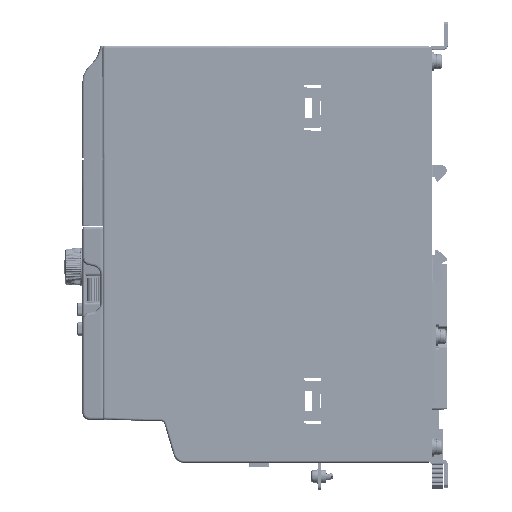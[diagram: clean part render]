
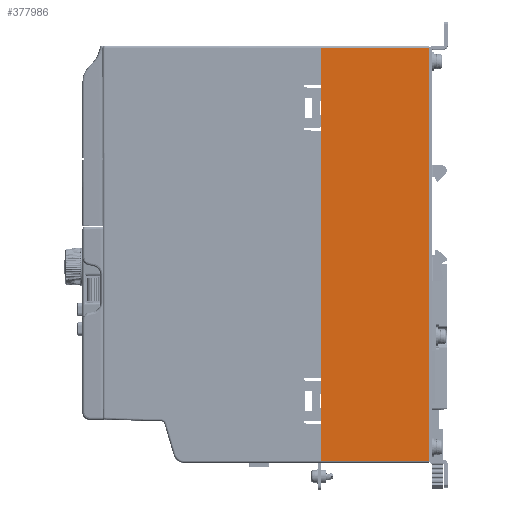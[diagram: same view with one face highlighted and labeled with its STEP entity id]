
A CAD part, left-side view. The second image highlights one B-rep face of the part: STEP entity #377986.
In plain terms, the highlighted planar face has unit normal (-1, 0, 0).
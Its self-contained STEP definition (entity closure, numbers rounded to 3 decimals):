
#374396=DIRECTION('',(0.,0.,-1.));
#374397=VECTOR('',#374396,183.);
#374398=CARTESIAN_POINT('',(-47.5,-47.5,91.5));
#374399=LINE('',#374398,#374397);
#374731=DIRECTION('',(0.,1.,0.));
#374732=VECTOR('',#374731,47.5);
#374733=CARTESIAN_POINT('',(-47.5,-47.5,91.5));
#374734=LINE('',#374733,#374732);
#374738=DIRECTION('',(0.,-1.,0.));
#374739=VECTOR('',#374738,47.5);
#374740=CARTESIAN_POINT('',(-47.5,0.,-91.5));
#374741=LINE('',#374740,#374739);
#374745=DIRECTION('',(0.,0.,1.));
#374746=VECTOR('',#374745,183.);
#374747=CARTESIAN_POINT('',(-47.5,0.,-91.5));
#374748=LINE('',#374747,#374746);
#376321=CARTESIAN_POINT('',(-47.5,0.,91.5));
#376323=VERTEX_POINT('',#376321);
#376327=CARTESIAN_POINT('',(-47.5,-47.5,91.5));
#376328=VERTEX_POINT('',#376327);
#376329=CARTESIAN_POINT('',(-47.5,-47.5,-91.5));
#376331=VERTEX_POINT('',#376329);
#376335=CARTESIAN_POINT('',(-47.5,0.,-91.5));
#376336=VERTEX_POINT('',#376335);
#377975=CARTESIAN_POINT('',(-47.5,0.,-92.5));
#377976=DIRECTION('',(-1.,0.,0.));
#377977=DIRECTION('',(0.,-1.,0.));
#377978=AXIS2_PLACEMENT_3D('',#377975,#377976,#377977);
#377979=PLANE('',#377978);
#377980=ORIENTED_EDGE('',*,*,#377695,.F.);
#377981=ORIENTED_EDGE('',*,*,#377712,.T.);
#377982=ORIENTED_EDGE('',*,*,#377970,.F.);
#377983=ORIENTED_EDGE('',*,*,#377606,.T.);
#377984=EDGE_LOOP('',(#377980,#377981,#377982,#377983));
#377985=FACE_OUTER_BOUND('',#377984,.F.);
#377606=EDGE_CURVE('',#376336,#376323,#374748,.T.);
#377695=EDGE_CURVE('',#376328,#376323,#374734,.T.);
#377712=EDGE_CURVE('',#376328,#376331,#374399,.T.);
#377970=EDGE_CURVE('',#376336,#376331,#374741,.T.);
#377986=ADVANCED_FACE('',(#377985),#377979,.T.);
